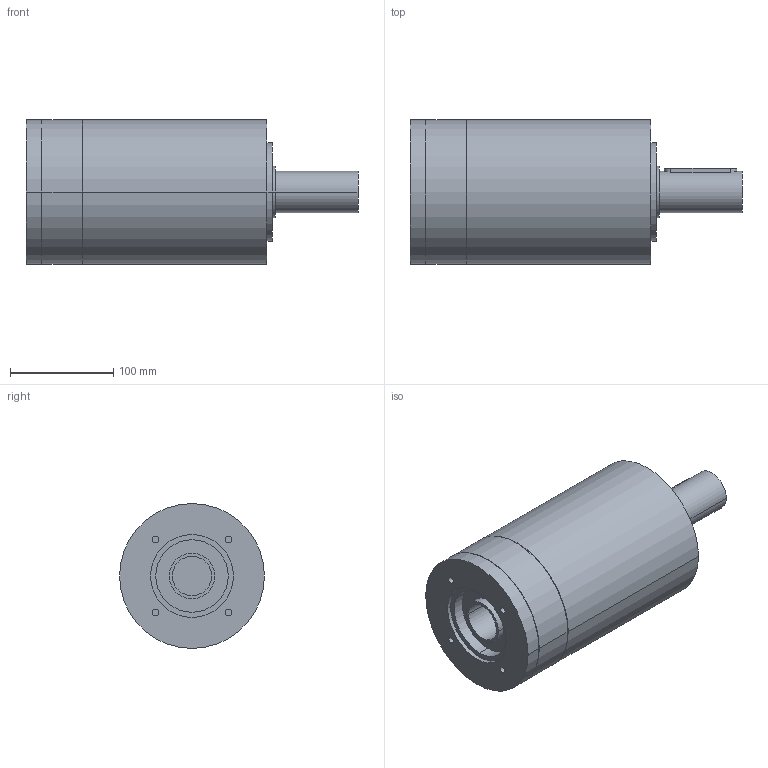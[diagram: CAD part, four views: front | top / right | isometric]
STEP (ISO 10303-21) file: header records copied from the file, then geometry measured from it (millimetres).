
FILE_DESCRIPTION(('CoCreate Modeling STEP Export'),'2;1');
FILE_NAME('GPR150_ig-9-12-16-20-28-35_40_B14_38_P02.stp','2014-08-19T17:04:29',(''),(''),'CoCreate Modeling STEP processor for AP214 (Solid Model)','CoCreate Modeling 16.00C 25-Feb-2009 (C) Parametric Technology GmbH','');
FILE_SCHEMA(('AUTOMOTIVE_DESIGN { 1 0 10303 214 1 1 1 1 }'));
Length unit declared in the file: millimetre
Products named in the file (2): GPR150_ig-9-12-16-20-28-35_40_B14_38_P02
Assembly tree (1 placements, depth 2):
  GPR150_ig-9-12-16-20-28-35_40_B14_38_P02
    GPR150_ig-9-12-16-20-28-35_40_B14_38_P02
Bounding box: 321 x 140 x 140 mm (x, y, z)
Volume: 3576328.3 mm3; surface area: 166896.9 mm2
Topology: 1 solids, 1 shells, 80 faces, 198 edges, 140 vertices
Faces by surface type: cylinder 48, plane 26, cone 6
Entity records: 2030 total; most frequent: ORIENTED_EDGE 392, CARTESIAN_POINT 389, DIRECTION 262, EDGE_CURVE 196, VERTEX_POINT 140, EDGE_LOOP 102, AXIS2_PLACEMENT_3D 101, FACE_OUTER_BOUND 80
